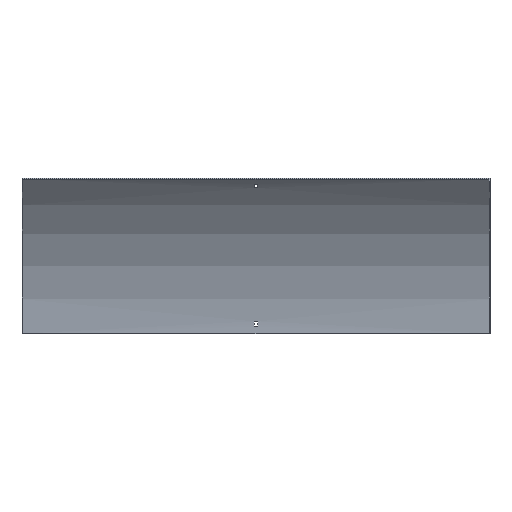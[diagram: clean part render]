
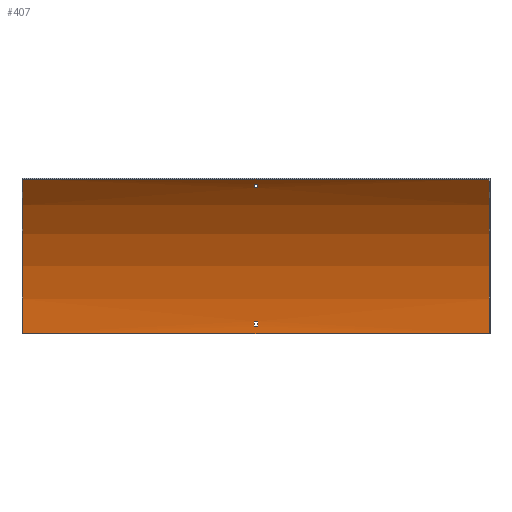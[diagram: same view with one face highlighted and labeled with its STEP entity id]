
A CAD part, front view. The second image highlights one B-rep face of the part: STEP entity #407.
In plain terms, the highlighted cylindrical face has radius 375 mm (diameter 750 mm), a partial arc.
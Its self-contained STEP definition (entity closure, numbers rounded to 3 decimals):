
#18 = CARTESIAN_POINT ( 'NONE',  ( 3.25, -102.985, 256.544 ) ) ;
#22 = CARTESIAN_POINT ( 'NONE',  ( -3.25, -1.692, 12. ) ) ;
#31 = AXIS2_PLACEMENT_3D ( 'NONE', #183, #361, #552 ) ;
#38 = VECTOR ( 'NONE', #507, 1000. ) ;
#39 = ORIENTED_EDGE ( 'NONE', *, *, #475, .F. ) ;
#43 = EDGE_CURVE ( 'NONE', #481, #353, #540, .T. ) ;
#44 = LINE ( 'NONE', #411, #557 ) ;
#48 = CARTESIAN_POINT ( 'NONE',  ( 400., -1.5, 0. ) ) ;
#50 = ORIENTED_EDGE ( 'NONE', *, *, #433, .F. ) ;
#52 = EDGE_CURVE ( 'NONE', #263, #256, #558, .T. ) ;
#56 = ORIENTED_EDGE ( 'NONE', *, *, #338, .T. ) ;
#61 = EDGE_CURVE ( 'NONE', #353, #266, #137, .T. ) ;
#76 = AXIS2_PLACEMENT_3D ( 'NONE', #101, #423, #376 ) ;
#79 = CARTESIAN_POINT ( 'NONE',  ( 401.5, -1.692, 12. ) ) ;
#81 = ORIENTED_EDGE ( 'NONE', *, *, #169, .T. ) ;
#98 = CARTESIAN_POINT ( 'NONE',  ( 3.25, -2.088, 21. ) ) ;
#100 = CARTESIAN_POINT ( 'NONE',  ( 3.25, -96.902, 249.9 ) ) ;
#101 = CARTESIAN_POINT ( 'NONE',  ( -400., -376.5, 0. ) ) ;
#102 = DIRECTION ( 'NONE',  ( -1., 0., 0. ) ) ;
#117 = EDGE_CURVE ( 'NONE', #416, #195, #151, .T. ) ;
#120 = CYLINDRICAL_SURFACE ( 'NONE', #181, 375. ) ;
#126 = ORIENTED_EDGE ( 'NONE', *, *, #395, .F. ) ;
#130 = DIRECTION ( 'NONE',  ( 1., 0., 0. ) ) ;
#134 = CIRCLE ( 'NONE', #31, 375. ) ;
#136 = VERTEX_POINT ( 'NONE', #22 ) ;
#137 = LINE ( 'NONE', #319, #38 ) ;
#139 = CIRCLE ( 'NONE', #598, 375. ) ;
#145 = AXIS2_PLACEMENT_3D ( 'NONE', #398, #547, #488 ) ;
#151 = LINE ( 'NONE', #162, #512 ) ;
#154 = CIRCLE ( 'NONE', #145, 375. ) ;
#162 = CARTESIAN_POINT ( 'NONE',  ( 400., -111.335, 265.165 ) ) ;
#169 = EDGE_CURVE ( 'NONE', #266, #447, #154, .T. ) ;
#173 = DIRECTION ( 'NONE',  ( 1., 0., 0. ) ) ;
#181 = AXIS2_PLACEMENT_3D ( 'NONE', #499, #351, #261 ) ;
#183 = CARTESIAN_POINT ( 'NONE',  ( 400., -376.5, 0. ) ) ;
#191 = CARTESIAN_POINT ( 'NONE',  ( 3.25, -376.5, 0. ) ) ;
#195 = VERTEX_POINT ( 'NONE', #252 ) ;
#221 = ORIENTED_EDGE ( 'NONE', *, *, #589, .F. ) ;
#222 = FACE_OUTER_BOUND ( 'NONE', #224, .T. ) ;
#224 = EDGE_LOOP ( 'NONE', ( #39, #495, #56, #325 ) ) ;
#227 = DIRECTION ( 'NONE',  ( -1., 0., 0. ) ) ;
#252 = CARTESIAN_POINT ( 'NONE',  ( -400., -111.335, 265.165 ) ) ;
#256 = VERTEX_POINT ( 'NONE', #555 ) ;
#261 = DIRECTION ( 'NONE',  ( 0., 0., 1. ) ) ;
#262 = EDGE_LOOP ( 'NONE', ( #588, #81, #520, #330 ) ) ;
#263 = VERTEX_POINT ( 'NONE', #98 ) ;
#266 = VERTEX_POINT ( 'NONE', #282 ) ;
#267 = VECTOR ( 'NONE', #227, 1000. ) ;
#282 = CARTESIAN_POINT ( 'NONE',  ( -3.25, -96.902, 249.9 ) ) ;
#310 = ORIENTED_EDGE ( 'NONE', *, *, #52, .F. ) ;
#319 = CARTESIAN_POINT ( 'NONE',  ( 401.5, -96.902, 249.9 ) ) ;
#322 = CARTESIAN_POINT ( 'NONE',  ( 401.5, -2.088, 21. ) ) ;
#325 = ORIENTED_EDGE ( 'NONE', *, *, #117, .T. ) ;
#327 = CARTESIAN_POINT ( 'NONE',  ( -400., -1.5, 0. ) ) ;
#330 = ORIENTED_EDGE ( 'NONE', *, *, #43, .T. ) ;
#338 = EDGE_CURVE ( 'NONE', #486, #416, #134, .T. ) ;
#340 = CIRCLE ( 'NONE', #76, 375. ) ;
#351 = DIRECTION ( 'NONE',  ( -1., 0., 0. ) ) ;
#353 = VERTEX_POINT ( 'NONE', #100 ) ;
#355 = CARTESIAN_POINT ( 'NONE',  ( -3.25, -102.985, 256.544 ) ) ;
#359 = FACE_BOUND ( 'NONE', #534, .T. ) ;
#361 = DIRECTION ( 'NONE',  ( 1., 0., 0. ) ) ;
#363 = DIRECTION ( 'NONE',  ( -1., 0., 0. ) ) ;
#367 = DIRECTION ( 'NONE',  ( 0., 0., 1. ) ) ;
#376 = DIRECTION ( 'NONE',  ( 0., 0., -1. ) ) ;
#394 = VERTEX_POINT ( 'NONE', #504 ) ;
#395 = EDGE_CURVE ( 'NONE', #394, #263, #139, .T. ) ;
#398 = CARTESIAN_POINT ( 'NONE',  ( -3.25, -376.5, 0. ) ) ;
#402 = AXIS2_PLACEMENT_3D ( 'NONE', #440, #434, #575 ) ;
#404 = DIRECTION ( 'NONE',  ( 1., 0., 0. ) ) ;
#407 = ADVANCED_FACE ( 'NONE', ( #359, #222, #551 ), #120, .F. ) ;
#411 = CARTESIAN_POINT ( 'NONE',  ( 401.5, -102.985, 256.544 ) ) ;
#416 = VERTEX_POINT ( 'NONE', #543 ) ;
#423 = DIRECTION ( 'NONE',  ( 1., 0., 0. ) ) ;
#427 = AXIS2_PLACEMENT_3D ( 'NONE', #191, #363, #367 ) ;
#432 = CIRCLE ( 'NONE', #402, 375. ) ;
#433 = EDGE_CURVE ( 'NONE', #136, #394, #492, .T. ) ;
#434 = DIRECTION ( 'NONE',  ( -1., 0., 0. ) ) ;
#440 = CARTESIAN_POINT ( 'NONE',  ( -3.25, -376.5, 0. ) ) ;
#447 = VERTEX_POINT ( 'NONE', #355 ) ;
#448 = EDGE_CURVE ( 'NONE', #447, #481, #44, .T. ) ;
#454 = LINE ( 'NONE', #48, #267 ) ;
#458 = DIRECTION ( 'NONE',  ( -1., 0., 0. ) ) ;
#463 = CARTESIAN_POINT ( 'NONE',  ( 400., -1.5, 0. ) ) ;
#469 = EDGE_CURVE ( 'NONE', #486, #548, #454, .T. ) ;
#475 = EDGE_CURVE ( 'NONE', #548, #195, #340, .T. ) ;
#481 = VERTEX_POINT ( 'NONE', #18 ) ;
#486 = VERTEX_POINT ( 'NONE', #463 ) ;
#488 = DIRECTION ( 'NONE',  ( 0., 0., -1. ) ) ;
#489 = VECTOR ( 'NONE', #458, 1000. ) ;
#492 = LINE ( 'NONE', #79, #531 ) ;
#495 = ORIENTED_EDGE ( 'NONE', *, *, #469, .F. ) ;
#499 = CARTESIAN_POINT ( 'NONE',  ( 401.5, -376.5, 0. ) ) ;
#504 = CARTESIAN_POINT ( 'NONE',  ( 3.25, -1.692, 12. ) ) ;
#507 = DIRECTION ( 'NONE',  ( -1., 0., 0. ) ) ;
#512 = VECTOR ( 'NONE', #102, 1000. ) ;
#520 = ORIENTED_EDGE ( 'NONE', *, *, #448, .T. ) ;
#531 = VECTOR ( 'NONE', #404, 1000. ) ;
#534 = EDGE_LOOP ( 'NONE', ( #221, #310, #126, #50 ) ) ;
#538 = DIRECTION ( 'NONE',  ( 0., 0., -1. ) ) ;
#540 = CIRCLE ( 'NONE', #427, 375. ) ;
#543 = CARTESIAN_POINT ( 'NONE',  ( 400., -111.335, 265.165 ) ) ;
#546 = CARTESIAN_POINT ( 'NONE',  ( 3.25, -376.5, 0. ) ) ;
#547 = DIRECTION ( 'NONE',  ( 1., 0., 0. ) ) ;
#548 = VERTEX_POINT ( 'NONE', #327 ) ;
#551 = FACE_BOUND ( 'NONE', #262, .T. ) ;
#552 = DIRECTION ( 'NONE',  ( 0., 0., -1. ) ) ;
#555 = CARTESIAN_POINT ( 'NONE',  ( -3.25, -2.088, 21. ) ) ;
#557 = VECTOR ( 'NONE', #130, 1000. ) ;
#558 = LINE ( 'NONE', #322, #489 ) ;
#575 = DIRECTION ( 'NONE',  ( 0., 0., 1. ) ) ;
#588 = ORIENTED_EDGE ( 'NONE', *, *, #61, .T. ) ;
#589 = EDGE_CURVE ( 'NONE', #256, #136, #432, .T. ) ;
#598 = AXIS2_PLACEMENT_3D ( 'NONE', #546, #173, #538 ) ;
